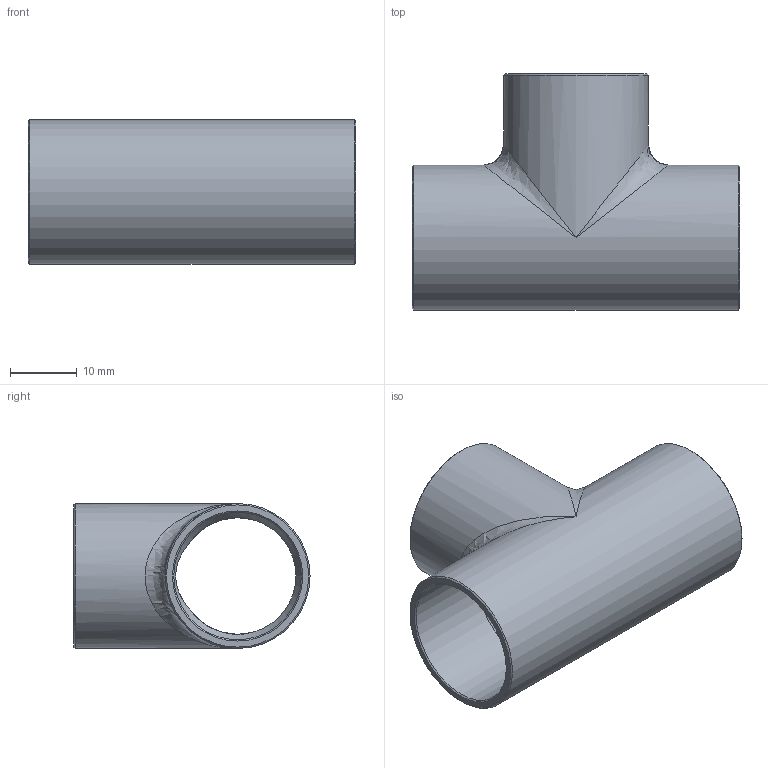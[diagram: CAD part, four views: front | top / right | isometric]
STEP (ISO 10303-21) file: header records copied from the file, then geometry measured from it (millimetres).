
FILE_DESCRIPTION((''),'2;1');
FILE_NAME('G:\SANHA-Ternat\Technik\Management\Bouwmaten + markeringen\z-maattekeningen 3D\29000s\2913034_3d.stp','2017-07-26T15:45:24',('vdvijverd'),(''),'Autodesk Inventor 2009','Autodesk Inventor 2009','');
FILE_SCHEMA(('AUTOMOTIVE_DESIGN { 1 0 10303 214 1 1 1 1 }'));
Length unit declared in the file: millimetre
Products named in the file (1): 2913034_3d
Bounding box: 49.2 x 35.5 x 21.8 mm (x, y, z)
Volume: 6065.2 mm3; surface area: 7951.9 mm2
Topology: 1 solids, 1 shells, 24 faces, 70 edges, 39 vertices
Faces by surface type: cone 8, cylinder 7, bspline 6, plane 3
Full cylindrical faces by diameter (mm): 19.17 x2, 21.8 x2
Entity records: 1502 total; most frequent: CARTESIAN_POINT 977, DIRECTION 112, ORIENTED_EDGE 82, AXIS2_PLACEMENT_3D 56, EDGE_LOOP 42, EDGE_CURVE 41, VERTEX_POINT 33, FACE_OUTER_BOUND 24
